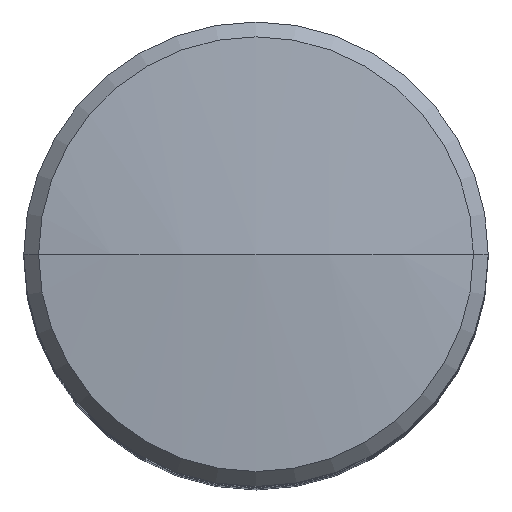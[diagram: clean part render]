
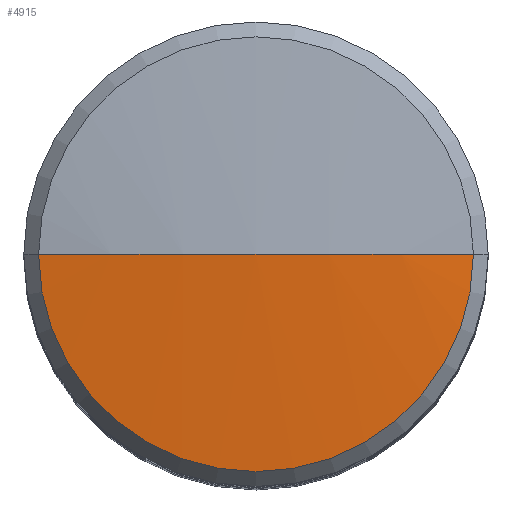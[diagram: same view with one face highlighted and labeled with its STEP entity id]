
A CAD part, top view. The second image highlights one B-rep face of the part: STEP entity #4915.
In plain terms, the highlighted spherical face has radius 162.733 mm.
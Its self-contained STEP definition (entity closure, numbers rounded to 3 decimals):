
#159 = CARTESIAN_POINT ( 'NONE',  ( 0., 0., 143.747 ) ) ;
#226 = EDGE_CURVE ( 'NONE', #3504, #3995, #703, .T. ) ;
#667 = DIRECTION ( 'NONE',  ( 1., 0., 0. ) ) ;
#701 = DIRECTION ( 'NONE',  ( 0., 1., 0. ) ) ;
#703 = CIRCLE ( 'NONE', #5541, 23.4 ) ;
#1117 = SPHERICAL_SURFACE ( 'NONE', #1571, 162.733 ) ;
#1173 = CARTESIAN_POINT ( 'NONE',  ( 0., 0., 306.48 ) ) ;
#1268 = CARTESIAN_POINT ( 'NONE',  ( 0., 0., 143.747 ) ) ;
#1315 = DIRECTION ( 'NONE',  ( 0., -1., 0. ) ) ;
#1395 = DIRECTION ( 'NONE',  ( 1., 0., 0. ) ) ;
#1571 = AXIS2_PLACEMENT_3D ( 'NONE', #159, #2160, #667 ) ;
#1687 = EDGE_CURVE ( 'NONE', #3504, #4051, #5916, .T. ) ;
#1742 = AXIS2_PLACEMENT_3D ( 'NONE', #1268, #1315, #1395 ) ;
#1886 = ORIENTED_EDGE ( 'NONE', *, *, #1687, .T. ) ;
#2160 = DIRECTION ( 'NONE',  ( 0., 1., 0. ) ) ;
#2333 = ORIENTED_EDGE ( 'NONE', *, *, #226, .F. ) ;
#3504 = VERTEX_POINT ( 'NONE', #5159 ) ;
#3658 = AXIS2_PLACEMENT_3D ( 'NONE', #3726, #701, #4221 ) ;
#3726 = CARTESIAN_POINT ( 'NONE',  ( 0., 0., 143.747 ) ) ;
#3823 = DIRECTION ( 'NONE',  ( 0., 0., -1. ) ) ;
#3963 = ORIENTED_EDGE ( 'NONE', *, *, #4026, .F. ) ;
#3995 = VERTEX_POINT ( 'NONE', #4588 ) ;
#4026 = EDGE_CURVE ( 'NONE', #3995, #4051, #4977, .T. ) ;
#4029 = EDGE_LOOP ( 'NONE', ( #3963, #2333, #1886 ) ) ;
#4051 = VERTEX_POINT ( 'NONE', #1173 ) ;
#4221 = DIRECTION ( 'NONE',  ( -1., 0., 0. ) ) ;
#4588 = CARTESIAN_POINT ( 'NONE',  ( -23.4, 0., 304.789 ) ) ;
#4829 = FACE_OUTER_BOUND ( 'NONE', #4029, .T. ) ;
#4915 = ADVANCED_FACE ( 'NONE', ( #4829 ), #1117, .T. ) ;
#4977 = CIRCLE ( 'NONE', #3658, 162.733 ) ;
#5159 = CARTESIAN_POINT ( 'NONE',  ( 23.4, 0., 304.789 ) ) ;
#5173 = CARTESIAN_POINT ( 'NONE',  ( 0., 0., 304.789 ) ) ;
#5309 = DIRECTION ( 'NONE',  ( -1., 0., 0. ) ) ;
#5541 = AXIS2_PLACEMENT_3D ( 'NONE', #5173, #3823, #5309 ) ;
#5916 = CIRCLE ( 'NONE', #1742, 162.733 ) ;
